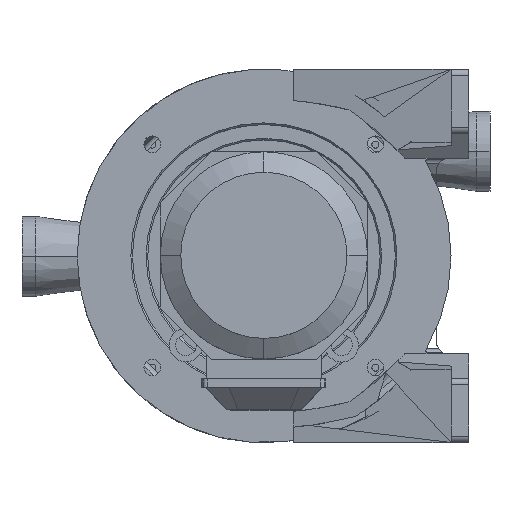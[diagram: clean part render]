
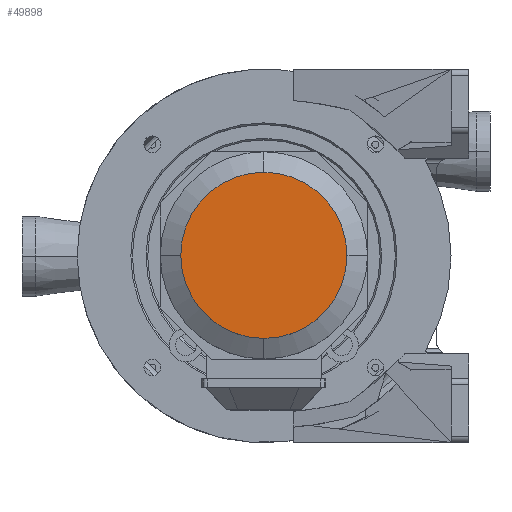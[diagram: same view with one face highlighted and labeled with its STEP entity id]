
A CAD part, top view. The second image highlights one B-rep face of the part: STEP entity #49898.
In plain terms, the highlighted planar face has unit normal (0, 0, 1).
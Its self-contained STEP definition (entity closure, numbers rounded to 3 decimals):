
#45121=CARTESIAN_POINT('',(0.,-79.,432.5));
#45122=VERTEX_POINT('',#45121);
#45129=CARTESIAN_POINT('',(0.,79.,432.5));
#45130=VERTEX_POINT('',#45129);
#45131=CARTESIAN_POINT('',(0.,0.,432.5));
#45132=DIRECTION('',(0.0,0.0,1.0));
#45133=DIRECTION('',(0.0,-1.0,0.0));
#45134=AXIS2_PLACEMENT_3D('',#45131,#45132,#45133);
#45135=CIRCLE('',#45134,79.0);
#45136=EDGE_CURVE('',#45130,#45122,#45135,.T.);
#49883=CARTESIAN_POINT('',(-86.9,86.9,432.5));
#49884=DIRECTION('',(0.0,0.0,1.0));
#49885=DIRECTION('',(0.0,-1.0,0.0));
#49886=AXIS2_PLACEMENT_3D('',#49883,#49884,#49885);
#49887=PLANE('',#49886);
#49888=CARTESIAN_POINT('',(0.,0.,432.5));
#49889=DIRECTION('',(0.0,0.0,1.0));
#49890=DIRECTION('',(0.0,-1.0,0.0));
#49891=AXIS2_PLACEMENT_3D('',#49888,#49889,#49890);
#49892=CIRCLE('',#49891,79.0);
#49893=EDGE_CURVE('',#45122,#45130,#49892,.T.);
#49894=ORIENTED_EDGE('',*,*,#49893,.T.);
#49895=ORIENTED_EDGE('',*,*,#45136,.T.);
#49896=EDGE_LOOP('',(#49894,#49895));
#49897=FACE_OUTER_BOUND('',#49896,.T.);
#49898=ADVANCED_FACE('',(#49897),#49887,.T.);
